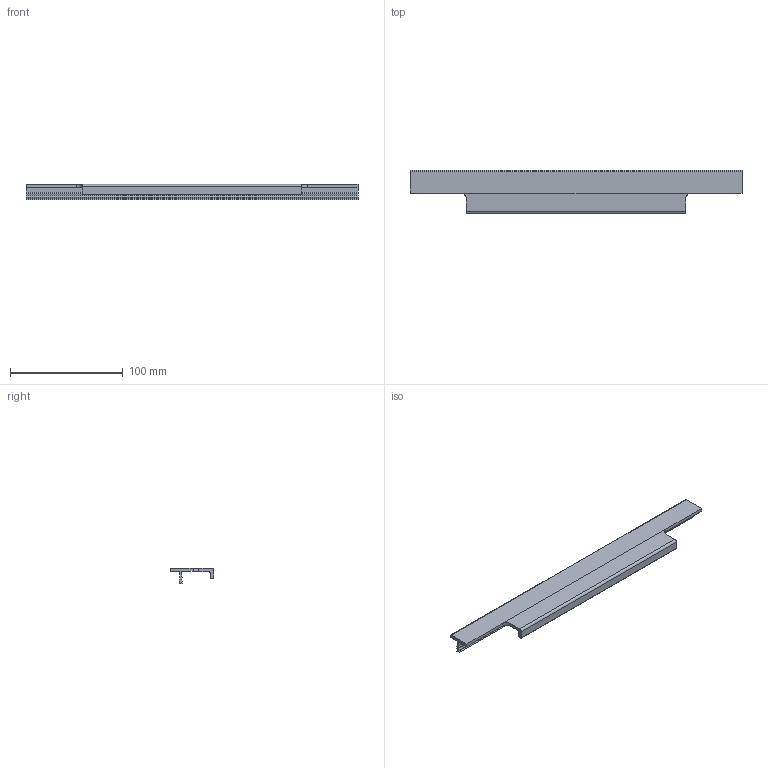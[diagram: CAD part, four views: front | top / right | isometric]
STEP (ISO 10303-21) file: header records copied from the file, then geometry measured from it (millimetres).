
FILE_DESCRIPTION( ( '' ), '1' );
FILE_NAME( 'C:/Documents and Settings/Nikhil/Desktop/Nik/Done/9105815.stp', '2013-10-23T08:17:47', ( '' ), ( '' ), ' ', ' ', ' ' );
FILE_SCHEMA( ( 'automotive_design' ) );
Length unit declared in the file: millimetre
Products named in the file (1): 1
Bounding box: 295 x 39 x 14 mm (x, y, z)
Volume: 38616.2 mm3; surface area: 30134.4 mm2
Topology: 1 solids, 1 shells, 40 faces, 112 edges, 74 vertices
Faces by surface type: plane 30, cylinder 10
Entity records: 2554 total; most frequent: STYLED_ITEM 227, PRESENTATION_STYLE_ASSIGNMENT 227, CARTESIAN_POINT 227, COLOUR_RGB 227, ORIENTED_EDGE 224, DIRECTION 214, EDGE_CURVE 112, CURVE_STYLE 112
